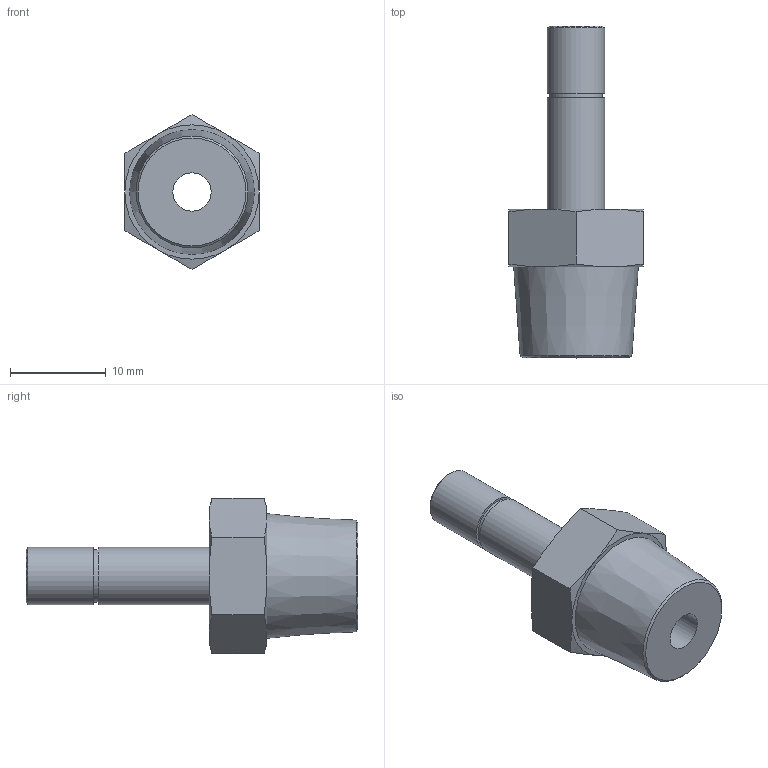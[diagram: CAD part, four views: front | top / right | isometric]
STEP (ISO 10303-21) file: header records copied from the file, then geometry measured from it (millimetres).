
FILE_DESCRIPTION(/* description */ (''),/* implementation_level */ '2;1');
FILE_NAME(/* name */ 'LXH15 0006 B2.stp',/* time_stamp */ '2026-04-28T15:40:26+02:00',/* author */ ('freju'),/* organization */ (''),/* preprocessor_version */ 'ST-DEVELOPER v20.1',/* originating_system */ 'Autodesk Inventor 2026',/* authorisation */ '');
FILE_SCHEMA (('AUTOMOTIVE_DESIGN { 1 0 10303 214 3 1 1 }'));
Length unit declared in the file: millimetre
Products named in the file (1): LXH15 0006 B2
Bounding box: 14 x 34.6 x 16.17 mm (x, y, z)
Volume: 2250.1 mm3; surface area: 1736 mm2
Topology: 1 solids, 1 shells, 31 faces, 63 edges, 38 vertices
Faces by surface type: cone 15, plane 12, cylinder 4
Full cylindrical faces by diameter (mm): 4 x1, 5.5 x1, 6 x2
Entity records: 830 total; most frequent: CARTESIAN_POINT 181, DIRECTION 129, ORIENTED_EDGE 126, EDGE_CURVE 63, AXIS2_PLACEMENT_3D 58, VERTEX_POINT 38, EDGE_LOOP 37, FACE_OUTER_BOUND 31
